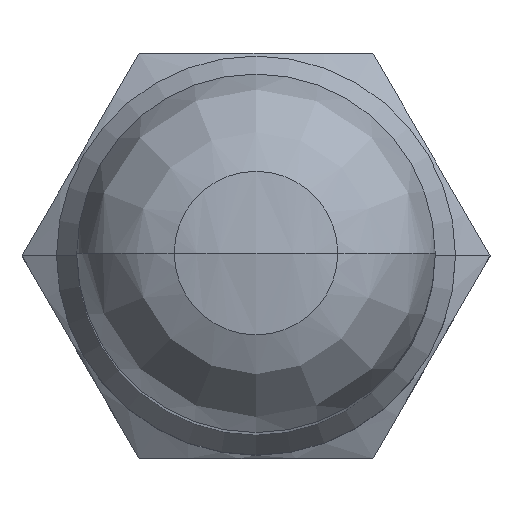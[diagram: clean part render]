
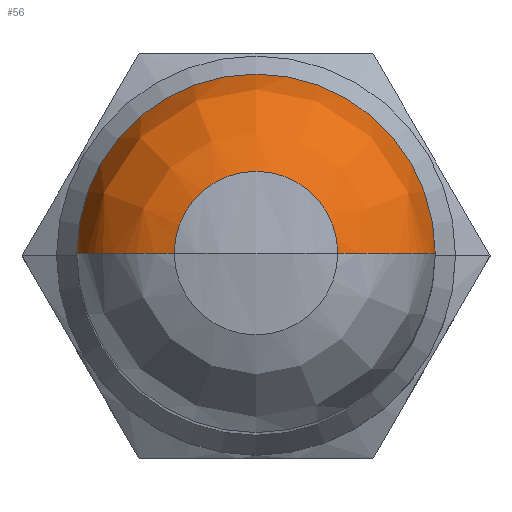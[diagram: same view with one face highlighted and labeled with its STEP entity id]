
A CAD part, top view. The second image highlights one B-rep face of the part: STEP entity #56.
In plain terms, the highlighted free-form (B-spline) face has degree [2, 2] with [5, 5] control points.
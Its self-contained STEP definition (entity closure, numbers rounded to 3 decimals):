
#56=ADVANCED_FACE('',(#228),#227,.T.);
#227=( BOUNDED_SURFACE() B_SPLINE_SURFACE( 2,2,((#432,#433,#434,#435,#436),(#437,#438,#439,#440,#441),(#442,#443,#444,#445,#446),(#447,#448,#449,#450,#451),(#452,#453,#454,#455,#456)), .UNSPECIFIED.,.F.,.F.,.F.) B_SPLINE_SURFACE_WITH_KNOTS((3,2,3),(3,2,3),(-1.999,-0.999,0.),(0.,1.571,3.142), .UNSPECIFIED. ) GEOMETRIC_REPRESENTATION_ITEM() RATIONAL_B_SPLINE_SURFACE(((1.,0.707,1.,0.707,1.),(0.878,0.621,0.878,0.621,0.878),(1.,0.707,1.,0.707,1.),(0.878,0.621,0.878,0.621,0.878),(1.,0.707,1.,0.707,1.))) REPRESENTATION_ITEM('') SURFACE() );
#228=FACE_OUTER_BOUND('',#457,.T.);
#432=CARTESIAN_POINT('',(0.,0.,152.613));
#433=CARTESIAN_POINT('',(0.,0.,152.613));
#434=CARTESIAN_POINT('',(0.,0.,152.613));
#435=CARTESIAN_POINT('',(0.,0.,152.613));
#436=CARTESIAN_POINT('',(0.,0.,152.613));
#437=CARTESIAN_POINT('',(4.967,0.,154.879));
#438=CARTESIAN_POINT('',(4.967,4.967,154.879));
#439=CARTESIAN_POINT('',(0.,4.967,154.879));
#440=CARTESIAN_POINT('',(-4.967,4.967,154.879));
#441=CARTESIAN_POINT('',(-4.967,0.,154.879));
#442=CARTESIAN_POINT('',(9.558,0.,151.926));
#443=CARTESIAN_POINT('',(9.558,9.558,151.926));
#444=CARTESIAN_POINT('',(0.,9.558,151.926));
#445=CARTESIAN_POINT('',(-9.558,9.558,151.926));
#446=CARTESIAN_POINT('',(-9.558,0.,151.926));
#447=CARTESIAN_POINT('',(14.15,0.,148.974));
#448=CARTESIAN_POINT('',(14.15,14.15,148.974));
#449=CARTESIAN_POINT('',(0.,14.15,148.974));
#450=CARTESIAN_POINT('',(-14.15,14.15,148.974));
#451=CARTESIAN_POINT('',(-14.15,0.,148.974));
#452=CARTESIAN_POINT('',(14.15,0.,143.515));
#453=CARTESIAN_POINT('',(14.15,14.15,143.515));
#454=CARTESIAN_POINT('',(0.,14.15,143.515));
#455=CARTESIAN_POINT('',(-14.15,14.15,143.515));
#456=CARTESIAN_POINT('',(-14.15,0.,143.515));
#457=EDGE_LOOP('',(#626,#627,#628,#629));
#626=ORIENTED_EDGE('',*,*,#708,.T.);
#627=ORIENTED_EDGE('',*,*,#709,.T.);
#628=ORIENTED_EDGE('',*,*,#704,.F.);
#629=ORIENTED_EDGE('',*,*,#710,.F.);
#704=EDGE_CURVE('',#962,#963,#964,.T.);
#708=EDGE_CURVE('',#988,#989,#990,.T.);
#709=EDGE_CURVE('',#989,#963,#996,.T.);
#710=EDGE_CURVE('',#988,#962,#1002,.T.);
#962=VERTEX_POINT('',#1327);
#963=VERTEX_POINT('',#1328);
#964=CIRCLE('',#1332,14.15);
#988=VERTEX_POINT('',#1341);
#989=VERTEX_POINT('',#1342);
#990=CIRCLE('',#1346,6.456);
#996=(BOUNDED_CURVE() B_SPLINE_CURVE(2,(#1347,#1348,#1349,#1350,#1351),.UNSPECIFIED.,.F.,.F.) B_SPLINE_CURVE_WITH_KNOTS((3,2,3),(-1.341,-0.999,0.),.UNSPECIFIED.) CURVE() GEOMETRIC_REPRESENTATION_ITEM() RATIONAL_B_SPLINE_CURVE((0.945,0.958,1.,0.878,1.)) REPRESENTATION_ITEM('') );
#1002=(BOUNDED_CURVE() B_SPLINE_CURVE(2,(#1352,#1353,#1354,#1355,#1356),.UNSPECIFIED.,.F.,.F.) B_SPLINE_CURVE_WITH_KNOTS((3,2,3),(-1.341,-0.999,0.),.UNSPECIFIED.) CURVE() GEOMETRIC_REPRESENTATION_ITEM() RATIONAL_B_SPLINE_CURVE((0.945,0.958,1.,0.878,1.)) REPRESENTATION_ITEM('') );
#1327=CARTESIAN_POINT('',(-14.15,0.,143.515));
#1328=CARTESIAN_POINT('',(14.15,0.,143.515));
#1329=CARTESIAN_POINT('',(0.,0.,143.515));
#1330=DIRECTION('',(0.,0.,-1.));
#1331=DIRECTION('',(-1.,0.,0.));
#1332=AXIS2_PLACEMENT_3D('',#1329,#1330,#1331);
#1341=CARTESIAN_POINT('',(-6.456,0.,153.246));
#1342=CARTESIAN_POINT('',(6.456,0.,153.246));
#1343=CARTESIAN_POINT('',(0.,0.,153.246));
#1344=DIRECTION('',(0.,0.,-1.));
#1345=DIRECTION('',(-1.,0.,0.));
#1346=AXIS2_PLACEMENT_3D('',#1343,#1344,#1345);
#1347=CARTESIAN_POINT('',(6.456,0.,153.246));
#1348=CARTESIAN_POINT('',(8.12,0.,152.851));
#1349=CARTESIAN_POINT('',(9.558,0.,151.926));
#1350=CARTESIAN_POINT('',(14.15,0.,148.974));
#1351=CARTESIAN_POINT('',(14.15,0.,143.515));
#1352=CARTESIAN_POINT('',(-6.456,0.,153.246));
#1353=CARTESIAN_POINT('',(-8.12,0.,152.851));
#1354=CARTESIAN_POINT('',(-9.558,0.,151.926));
#1355=CARTESIAN_POINT('',(-14.15,0.,148.974));
#1356=CARTESIAN_POINT('',(-14.15,0.,143.515));
